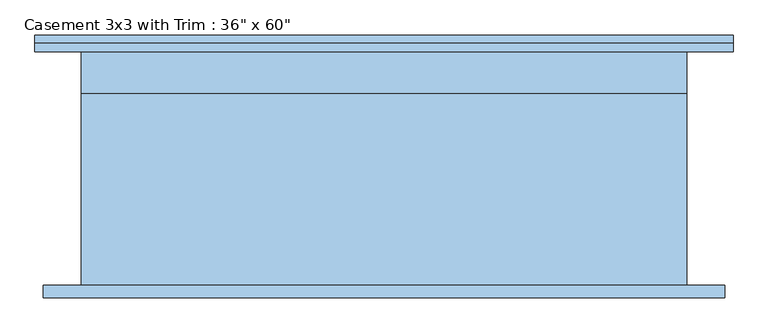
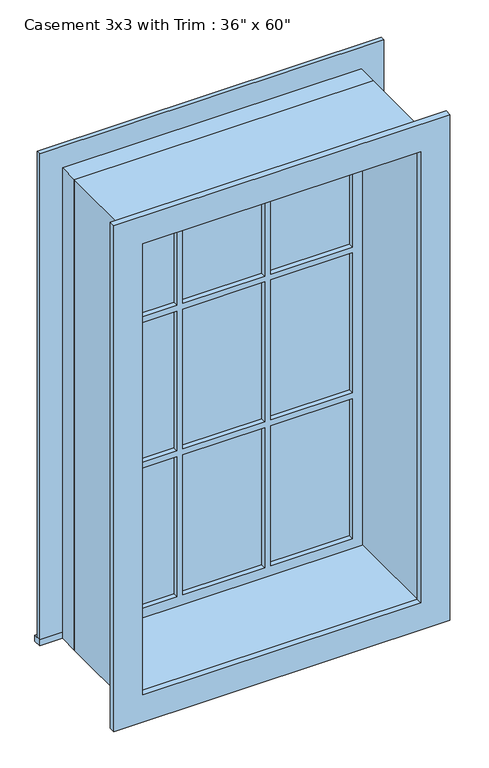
"""IFC4 building model written with IfcOpenShell, lengths in millimetres: window geometry."""

from ifc_helpers import new_model, si_unit, frame, origin, place, context, project, spatial, polyline, outline, extrude, source, transform, mapped, element, save


def window_2a808394(model_context):
    return source(origin(), model_context, "Body", "SweptSolid", [
        extrude(outline(polyline([(-527.05, 201.6125), (527.05, 201.6125), (527.05, 176.2125), (-527.05, 176.2125), (-527.05, 201.6125)])), frame((0.0, 0.0, 609.6), z_axis=(0.0, 0.0, 1.0), x_axis=(1.0, 0.0, 0.0)), (0.0, 0.0, 1.0), 19.05),
        extrude(outline(polyline([(2114.55, -438.15), (2114.55, 438.15), (628.65, 438.15), (628.65, 527.05), (2203.45, 527.05), (2203.45, -527.05), (628.65, -527.05), (628.65, -438.15), (2114.55, -438.15)])), frame((0.0, 176.2125, 0.0), z_axis=(0.0, 1.0, 0.0), x_axis=(0.0, 0.0, 1.0)), (0.0, 0.0, 1.0), 12.7),
        extrude(outline(polyline([(143.9333333, 141.2875), (393.7, 141.2875), (393.7, 128.5875), (143.9333333, 128.5875), (143.9333333, 141.2875)])), frame((0.0, 0.0, 1617.1333333), z_axis=(0.0, 0.0, 1.0), x_axis=(1.0, 0.0, 0.0)), (0.0, 0.0, 1.0), 452.9666667),
        extrude(outline(polyline([(-124.8833333, 141.2875), (124.8833333, 141.2875), (124.8833333, 128.5875), (-124.8833333, 128.5875), (-124.8833333, 141.2875)])), frame((0.0, 0.0, 1617.1333333), z_axis=(0.0, 0.0, 1.0), x_axis=(1.0, 0.0, 0.0)), (0.0, 0.0, 1.0), 452.9666667),
        extrude(outline(polyline([(-393.7, 141.2875), (-143.9333333, 141.2875), (-143.9333333, 128.5875), (-393.7, 128.5875), (-393.7, 141.2875)])), frame((0.0, 0.0, 1617.1333333), z_axis=(0.0, 0.0, 1.0), x_axis=(1.0, 0.0, 0.0)), (0.0, 0.0, 1.0), 452.9666667),
        extrude(outline(polyline([(-393.7, 141.2875), (-143.9333333, 141.2875), (-143.9333333, 128.5875), (-393.7, 128.5875), (-393.7, 141.2875)])), frame((0.0, 0.0, 1145.1166667), z_axis=(0.0, 0.0, 1.0), x_axis=(1.0, 0.0, 0.0)), (0.0, 0.0, 1.0), 452.9666667),
        extrude(outline(polyline([(-124.8833333, 141.2875), (124.8833333, 141.2875), (124.8833333, 128.5875), (-124.8833333, 128.5875), (-124.8833333, 141.2875)])), frame((0.0, 0.0, 1145.1166667), z_axis=(0.0, 0.0, 1.0), x_axis=(1.0, 0.0, 0.0)), (0.0, 0.0, 1.0), 452.9666667),
        extrude(outline(polyline([(143.9333333, 141.2875), (393.7, 141.2875), (393.7, 128.5875), (143.9333333, 128.5875), (143.9333333, 141.2875)])), frame((0.0, 0.0, 1145.1166667), z_axis=(0.0, 0.0, 1.0), x_axis=(1.0, 0.0, 0.0)), (0.0, 0.0, 1.0), 452.9666667),
        extrude(outline(polyline([(143.9333333, 141.2875), (393.7, 141.2875), (393.7, 128.5875), (143.9333333, 128.5875), (143.9333333, 141.2875)])), frame((0.0, 0.0, 673.1), z_axis=(0.0, 0.0, 1.0), x_axis=(1.0, 0.0, 0.0)), (0.0, 0.0, 1.0), 452.9666667),
        extrude(outline(polyline([(-124.8833333, 141.2875), (124.8833333, 141.2875), (124.8833333, 128.5875), (-124.8833333, 128.5875), (-124.8833333, 141.2875)])), frame((0.0, 0.0, 673.1), z_axis=(0.0, 0.0, 1.0), x_axis=(1.0, 0.0, 0.0)), (0.0, 0.0, 1.0), 452.9666667),
        extrude(outline(polyline([(-393.7, 141.2875), (-143.9333333, 141.2875), (-143.9333333, 128.5875), (-393.7, 128.5875), (-393.7, 141.2875)])), frame((0.0, 0.0, 673.1), z_axis=(0.0, 0.0, 1.0), x_axis=(1.0, 0.0, 0.0)), (0.0, 0.0, 1.0), 452.9666667),
        extrude(outline(polyline([(2190.75, 514.35), (2190.75, -514.35), (552.45, -514.35), (552.45, 514.35), (2190.75, 514.35)]), holes=[polyline([(2101.85, 425.45), (641.35, 425.45), (641.35, -425.45), (2101.85, -425.45), (2101.85, 425.45)])]), frame((0.0, -195.2625, 0.0), z_axis=(0.0, 1.0, 0.0), x_axis=(0.0, 0.0, 1.0)), (0.0, 0.0, 1.0), 19.05),
        extrude(outline(polyline([(2114.55, -438.15), (628.65, -438.15), (628.65, 438.15), (2114.55, 438.15), (2114.55, -438.15)]), holes=[polyline([(2070.1, -143.9333333), (1617.1333333, -143.9333333), (1617.1333333, -393.7), (2070.1, -393.7), (2070.1, -143.9333333)]), polyline([(1598.0833333, -143.9333333), (1145.1166667, -143.9333333), (1145.1166667, -393.7), (1598.0833333, -393.7), (1598.0833333, -143.9333333)]), polyline([(1126.0666667, -143.9333333), (673.1, -143.9333333), (673.1, -393.7), (1126.0666667, -393.7), (1126.0666667, -143.9333333)]), polyline([(2070.1, 124.8833333), (1617.1333333, 124.8833333), (1617.1333333, -124.8833333), (2070.1, -124.8833333), (2070.1, 124.8833333)]), polyline([(1598.0833333, 124.8833333), (1145.1166667, 124.8833333), (1145.1166667, -124.8833333), (1598.0833333, -124.8833333), (1598.0833333, 124.8833333)]), polyline([(1126.0666667, 124.8833333), (673.1, 124.8833333), (673.1, -124.8833333), (1126.0666667, -124.8833333), (1126.0666667, 124.8833333)]), polyline([(2070.1, 393.7), (1617.1333333, 393.7), (1617.1333333, 143.9333333), (2070.1, 143.9333333), (2070.1, 393.7)]), polyline([(1598.0833333, 393.7), (1145.1166667, 393.7), (1145.1166667, 143.9333333), (1598.0833333, 143.9333333), (1598.0833333, 393.7)]), polyline([(1126.0666667, 393.7), (673.1, 393.7), (673.1, 143.9333333), (1126.0666667, 143.9333333), (1126.0666667, 393.7)])]), frame((0.0, 112.7125, 0.0), z_axis=(0.0, 1.0, 0.0), x_axis=(0.0, 0.0, 1.0)), (0.0, 0.0, 1.0), 44.45),
        extrude(outline(polyline([(2133.6, -457.2), (609.6, -457.2), (609.6, 457.2), (2133.6, 457.2), (2133.6, -457.2)]), holes=[polyline([(2101.85, -425.45), (2101.85, 425.45), (641.35, 425.45), (641.35, -425.45), (2101.85, -425.45)])]), frame((0.0, -176.2125, 0.0), z_axis=(0.0, 1.0, 0.0), x_axis=(0.0, 0.0, 1.0)), (0.0, 0.0, 1.0), 288.925),
        extrude(outline(polyline([(2133.6, 457.2), (2133.6, -457.2), (609.6, -457.2), (609.6, 457.2), (2133.6, 457.2)]), holes=[polyline([(2114.55, 438.15), (628.65, 438.15), (628.65, -438.15), (2114.55, -438.15), (2114.55, 438.15)])]), frame((0.0, 112.7125, 0.0), z_axis=(0.0, 1.0, 0.0), x_axis=(0.0, 0.0, 1.0)), (0.0, 0.0, 1.0), 63.5),
    ])


if __name__ == "__main__":
    model = new_model("IFC4")
    model_context = context("Model", 3, world=origin())
    ifc_project = project(units=[si_unit("LENGTHUNIT", "METRE", prefix="MILLI")], contexts=[model_context])
    site = spatial("IfcSite", under=ifc_project)
    building = spatial("IfcBuilding", under=site)
    placement = place(None, origin())
    window_shape = window_2a808394(model_context)
    element("IfcWindow", 1, ObjectType="Casement 3x3 with Trim : 36\" x 60\"", at=placement, inside=building, context=model_context, shape_type="MappedRepresentation", body=[
        mapped(window_shape, transform((0.0, 0.0, 0.0), x_axis=(1.0, 0.0, 0.0), y_axis=(0.0, 1.0, 0.0), z_axis=(0.0, 0.0, 1.0))),
    ])
    save(model, "model.ifc")
